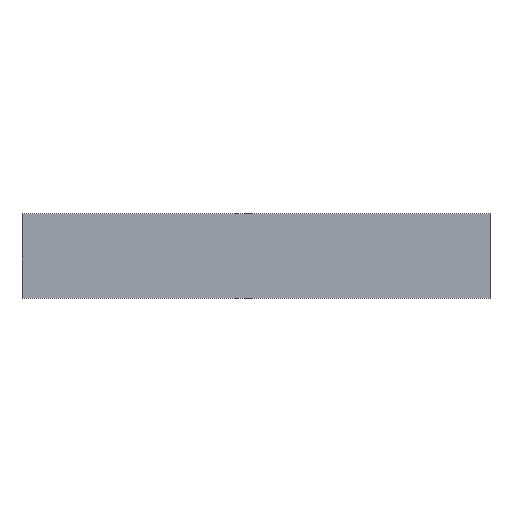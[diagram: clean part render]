
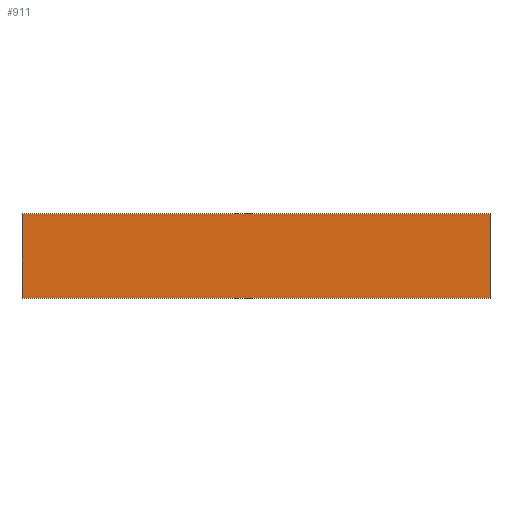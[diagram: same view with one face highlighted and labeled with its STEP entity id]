
A CAD part, top view. The second image highlights one B-rep face of the part: STEP entity #911.
In plain terms, the highlighted planar face has unit normal (0, 0, 1).
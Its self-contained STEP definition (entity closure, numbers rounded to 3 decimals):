
#446=CARTESIAN_POINT(' ',(278.,50.,10.));
#447=VERTEX_POINT(' ',#446);
#461=CARTESIAN_POINT(' ',(278.,-50.,10.));
#466=DIRECTION(' ',(0.,1.,0.));
#471=VECTOR(' ',#466,1.);
#476=LINE('',#461,#471);
#481=CARTESIAN_POINT(' ',(278.,-50.,10.));
#482=VERTEX_POINT(' ',#481);
#486=EDGE_CURVE(' ',#482,#447,#476,.T.);
#576=CARTESIAN_POINT(' ',(-278.,-50.,10.));
#581=DIRECTION(' ',(1.,0.,0.));
#586=VECTOR(' ',#581,1.);
#591=LINE('',#576,#586);
#596=CARTESIAN_POINT(' ',(-278.,-50.,10.));
#597=VERTEX_POINT(' ',#596);
#601=EDGE_CURVE(' ',#597,#482,#591,.T.);
#691=CARTESIAN_POINT(' ',(-278.,50.,10.));
#696=DIRECTION(' ',(0.,-1.,0.));
#701=VECTOR(' ',#696,1.);
#706=LINE('',#691,#701);
#711=CARTESIAN_POINT(' ',(-278.,50.,10.));
#712=VERTEX_POINT(' ',#711);
#716=EDGE_CURVE(' ',#712,#597,#706,.T.);
#806=CARTESIAN_POINT(' ',(278.,50.,10.));
#811=DIRECTION(' ',(-1.,0.,0.));
#816=VECTOR(' ',#811,1.);
#821=LINE('',#806,#816);
#826=EDGE_CURVE(' ',#447,#712,#821,.T.);
#856=DIRECTION(' ',(-0.,-0.,1.));
#861=CARTESIAN_POINT(' ',(278.,-50.,10.));
#866=DIRECTION(' ',(0.,1.,0.));
#871=AXIS2_PLACEMENT_3D(' ',#861,#856,#866);
#876=PLANE('NONE',#871);
#881=ORIENTED_EDGE(' ',*,*,#486,.T.);
#886=ORIENTED_EDGE(' ',*,*,#826,.T.);
#891=ORIENTED_EDGE(' ',*,*,#716,.T.);
#896=ORIENTED_EDGE(' ',*,*,#601,.T.);
#901=EDGE_LOOP(' ',(#881,#886,#891,#896));
#906=FACE_OUTER_BOUND(' ',#901,.T.);
#911=ADVANCED_FACE('NONE',(#906),#876,.T.);
